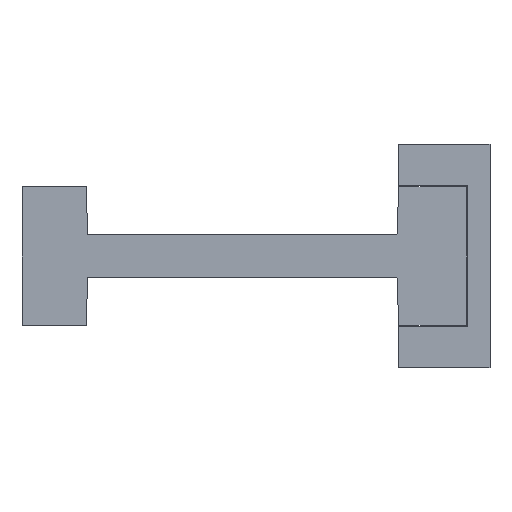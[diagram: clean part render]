
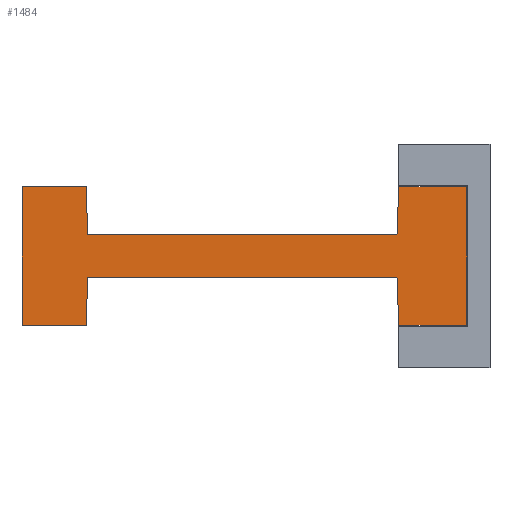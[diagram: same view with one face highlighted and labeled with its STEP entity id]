
A CAD part, left-side view. The second image highlights one B-rep face of the part: STEP entity #1484.
In plain terms, the highlighted planar face has unit normal (-1, 0, 0) as drawn and (0, 0, 1) by its records, which use the part's own axes.
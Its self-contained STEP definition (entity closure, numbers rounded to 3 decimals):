
#16 = VECTOR ( 'NONE', #105, 1000. ) ;
#24 = LINE ( 'NONE', #3833, #2982 ) ;
#105 = DIRECTION ( 'NONE',  ( 1., 0., 0. ) ) ;
#236 = VERTEX_POINT ( 'NONE', #1262 ) ;
#274 = CARTESIAN_POINT ( 'NONE',  ( -11.85, -11.6, 0. ) ) ;
#493 = LINE ( 'NONE', #910, #16 ) ;
#503 = CARTESIAN_POINT ( 'NONE',  ( 11.85, -65., 0. ) ) ;
#515 = CARTESIAN_POINT ( 'NONE',  ( -3.6, -11.9, 0. ) ) ;
#549 = EDGE_CURVE ( 'NONE', #4991, #2064, #6127, .T. ) ;
#602 = VERTEX_POINT ( 'NONE', #2468 ) ;
#820 = CARTESIAN_POINT ( 'NONE',  ( 3.6, -64.8, 0. ) ) ;
#910 = CARTESIAN_POINT ( 'NONE',  ( 11.85, -76., 0. ) ) ;
#1001 = VECTOR ( 'NONE', #5037, 1000. ) ;
#1019 = CARTESIAN_POINT ( 'NONE',  ( -11.85, -65., 0. ) ) ;
#1063 = ORIENTED_EDGE ( 'NONE', *, *, #549, .T. ) ;
#1262 = CARTESIAN_POINT ( 'NONE',  ( 11.85, 0., 0. ) ) ;
#1457 = ORIENTED_EDGE ( 'NONE', *, *, #4967, .T. ) ;
#1465 = VECTOR ( 'NONE', #6098, 1000. ) ;
#1484 = ADVANCED_FACE ( 'Face1', ( #5712 ), #1929, .F. ) ;
#1561 = DIRECTION ( 'NONE',  ( 0.999, 0.036, 0. ) ) ;
#1632 = VERTEX_POINT ( 'NONE', #820 ) ;
#1686 = ORIENTED_EDGE ( 'NONE', *, *, #2335, .T. ) ;
#1739 = VECTOR ( 'NONE', #2083, 1000. ) ;
#1767 = EDGE_CURVE ( 'NONE', #3796, #4991, #6118, .T. ) ;
#1771 = EDGE_CURVE ( 'NONE', #236, #602, #24, .T. ) ;
#1864 = VERTEX_POINT ( 'NONE', #3482 ) ;
#1929 = PLANE ( 'NONE',  #3500 ) ;
#1973 = ORIENTED_EDGE ( 'NONE', *, *, #3608, .T. ) ;
#1983 = CARTESIAN_POINT ( 'NONE',  ( -11.85, -11.6, 0. ) ) ;
#2064 = VERTEX_POINT ( 'NONE', #5730 ) ;
#2083 = DIRECTION ( 'NONE',  ( -1., 0.024, 0. ) ) ;
#2214 = CARTESIAN_POINT ( 'NONE',  ( -3.6, -11.9, 0. ) ) ;
#2264 = CARTESIAN_POINT ( 'NONE',  ( -11.85, -76., 0. ) ) ;
#2323 = VECTOR ( 'NONE', #4441, 1000. ) ;
#2335 = EDGE_CURVE ( 'NONE', #4568, #4814, #5839, .T. ) ;
#2445 = CARTESIAN_POINT ( 'NONE',  ( 11.85, -11.6, 0. ) ) ;
#2468 = CARTESIAN_POINT ( 'NONE',  ( -11.85, 0., 0. ) ) ;
#2493 = VECTOR ( 'NONE', #5367, 1000. ) ;
#2523 = ORIENTED_EDGE ( 'NONE', *, *, #5469, .T. ) ;
#2819 = CARTESIAN_POINT ( 'NONE',  ( 3.6, -11.9, 0. ) ) ;
#2900 = LINE ( 'NONE', #5777, #2976 ) ;
#2976 = VECTOR ( 'NONE', #1561, 1000. ) ;
#2982 = VECTOR ( 'NONE', #3891, 1000. ) ;
#3032 = CARTESIAN_POINT ( 'NONE',  ( 11.85, -76., 0. ) ) ;
#3095 = CARTESIAN_POINT ( 'NONE',  ( 3.6, -11.9, 0. ) ) ;
#3123 = CARTESIAN_POINT ( 'NONE',  ( 11.85, 0., 0. ) ) ;
#3341 = VECTOR ( 'NONE', #5160, 1000. ) ;
#3482 = CARTESIAN_POINT ( 'NONE',  ( -11.85, -65., 0. ) ) ;
#3500 = AXIS2_PLACEMENT_3D ( 'NONE', #3845, #5747, #5280 ) ;
#3560 = LINE ( 'NONE', #3123, #3579 ) ;
#3579 = VECTOR ( 'NONE', #3970, 1000. ) ;
#3608 = EDGE_CURVE ( 'NONE', #4814, #1632, #5430, .T. ) ;
#3796 = VERTEX_POINT ( 'NONE', #274 ) ;
#3833 = CARTESIAN_POINT ( 'NONE',  ( -11.85, 0., 0. ) ) ;
#3845 = CARTESIAN_POINT ( 'NONE',  ( 0., 0., 0. ) ) ;
#3891 = DIRECTION ( 'NONE',  ( -1., 0., 0. ) ) ;
#3949 = DIRECTION ( 'NONE',  ( -1., -0.024, 0. ) ) ;
#3958 = EDGE_CURVE ( 'NONE', #5821, #4568, #493, .T. ) ;
#3970 = DIRECTION ( 'NONE',  ( 0., 1., 0. ) ) ;
#4008 = VECTOR ( 'NONE', #3949, 1000. ) ;
#4124 = ORIENTED_EDGE ( 'NONE', *, *, #5407, .T. ) ;
#4162 = ORIENTED_EDGE ( 'NONE', *, *, #1771, .T. ) ;
#4298 = ORIENTED_EDGE ( 'NONE', *, *, #3958, .T. ) ;
#4317 = LINE ( 'NONE', #1019, #5103 ) ;
#4437 = CARTESIAN_POINT ( 'NONE',  ( 3.6, -64.8, 0. ) ) ;
#4441 = DIRECTION ( 'NONE',  ( 0., 1., 0. ) ) ;
#4521 = LINE ( 'NONE', #3095, #1001 ) ;
#4568 = VERTEX_POINT ( 'NONE', #3032 ) ;
#4619 = ORIENTED_EDGE ( 'NONE', *, *, #1767, .T. ) ;
#4674 = CARTESIAN_POINT ( 'NONE',  ( -11.85, 0., 0. ) ) ;
#4785 = CARTESIAN_POINT ( 'NONE',  ( -3.6, -64.8, 0. ) ) ;
#4814 = VERTEX_POINT ( 'NONE', #5120 ) ;
#4845 = VERTEX_POINT ( 'NONE', #2819 ) ;
#4874 = DIRECTION ( 'NONE',  ( 0., -1., 0. ) ) ;
#4895 = EDGE_LOOP ( 'NONE', ( #2523, #4162, #5142, #4619, #1063, #1457, #5942, #4298, #1686, #1973, #5287, #4124 ) ) ;
#4908 = LINE ( 'NONE', #4785, #4008 ) ;
#4967 = EDGE_CURVE ( 'NONE', #2064, #1864, #4908, .T. ) ;
#4991 = VERTEX_POINT ( 'NONE', #515 ) ;
#5037 = DIRECTION ( 'NONE',  ( 0., 1., 0. ) ) ;
#5103 = VECTOR ( 'NONE', #4874, 1000. ) ;
#5112 = EDGE_CURVE ( 'NONE', #1632, #4845, #4521, .T. ) ;
#5120 = CARTESIAN_POINT ( 'NONE',  ( 11.85, -65., 0. ) ) ;
#5142 = ORIENTED_EDGE ( 'NONE', *, *, #6023, .T. ) ;
#5160 = DIRECTION ( 'NONE',  ( 0., -1., 0. ) ) ;
#5280 = DIRECTION ( 'NONE',  ( -1., 0., 0. ) ) ;
#5287 = ORIENTED_EDGE ( 'NONE', *, *, #5112, .T. ) ;
#5327 = EDGE_CURVE ( 'NONE', #1864, #5821, #4317, .T. ) ;
#5367 = DIRECTION ( 'NONE',  ( 0.999, -0.036, 0. ) ) ;
#5407 = EDGE_CURVE ( 'NONE', #4845, #6109, #2900, .T. ) ;
#5430 = LINE ( 'NONE', #4437, #1739 ) ;
#5469 = EDGE_CURVE ( 'Edge1', #6109, #236, #3560, .T. ) ;
#5669 = LINE ( 'NONE', #4674, #3341 ) ;
#5712 = FACE_OUTER_BOUND ( 'NONE', #4895, .T. ) ;
#5730 = CARTESIAN_POINT ( 'NONE',  ( -3.6, -64.8, 0. ) ) ;
#5747 = DIRECTION ( 'NONE',  ( 0., 0., -1. ) ) ;
#5777 = CARTESIAN_POINT ( 'NONE',  ( 11.85, -11.6, 0. ) ) ;
#5821 = VERTEX_POINT ( 'NONE', #2264 ) ;
#5839 = LINE ( 'NONE', #503, #2323 ) ;
#5942 = ORIENTED_EDGE ( 'NONE', *, *, #5327, .T. ) ;
#6023 = EDGE_CURVE ( 'NONE', #602, #3796, #5669, .T. ) ;
#6098 = DIRECTION ( 'NONE',  ( 0., -1., 0. ) ) ;
#6109 = VERTEX_POINT ( 'NONE', #2445 ) ;
#6118 = LINE ( 'NONE', #1983, #2493 ) ;
#6127 = LINE ( 'NONE', #2214, #1465 ) ;
